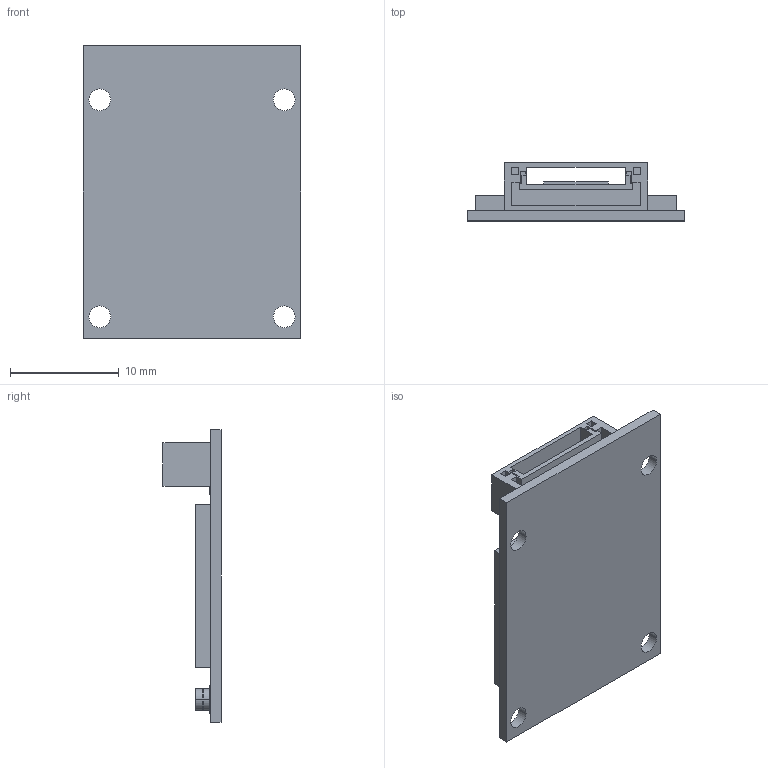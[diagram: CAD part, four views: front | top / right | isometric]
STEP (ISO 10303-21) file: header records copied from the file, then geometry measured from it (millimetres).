
FILE_DESCRIPTION((''),'2;1');
FILE_NAME('RTK','2023-07-07T10:30:27',('Dorcus'),(''),'CREO PARAMETRIC BY PTC INC, 2019224','CREO PARAMETRIC BY PTC INC, 2019224','');
FILE_SCHEMA(('CONFIG_CONTROL_DESIGN'));
Length unit declared in the file: millimetre
Products named in the file (1): RTK
Bounding box: 20 x 5.35 x 27 mm (x, y, z)
Volume: 1042.4 mm3; surface area: 1575 mm2
Topology: 1 solids, 1 shells, 141 faces, 354 edges, 236 vertices
Faces by surface type: plane 111, cylinder 30
Entity records: 4246 total; most frequent: CARTESIAN_POINT 731, ORIENTED_EDGE 708, DIRECTION 696, EDGE_CURVE 354, VECTOR 294, LINE 294, VERTEX_POINT 236, AXIS2_PLACEMENT_3D 201
